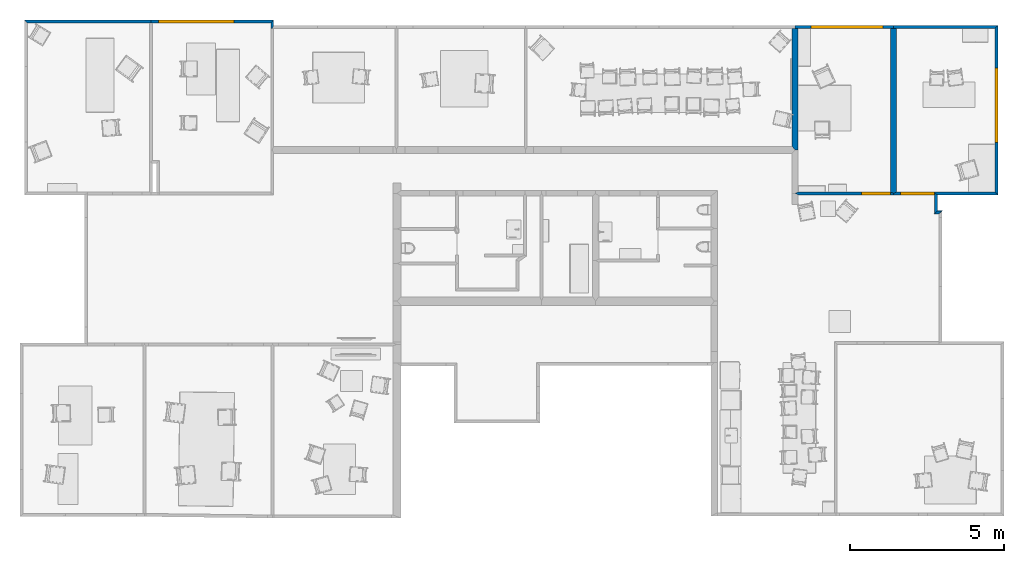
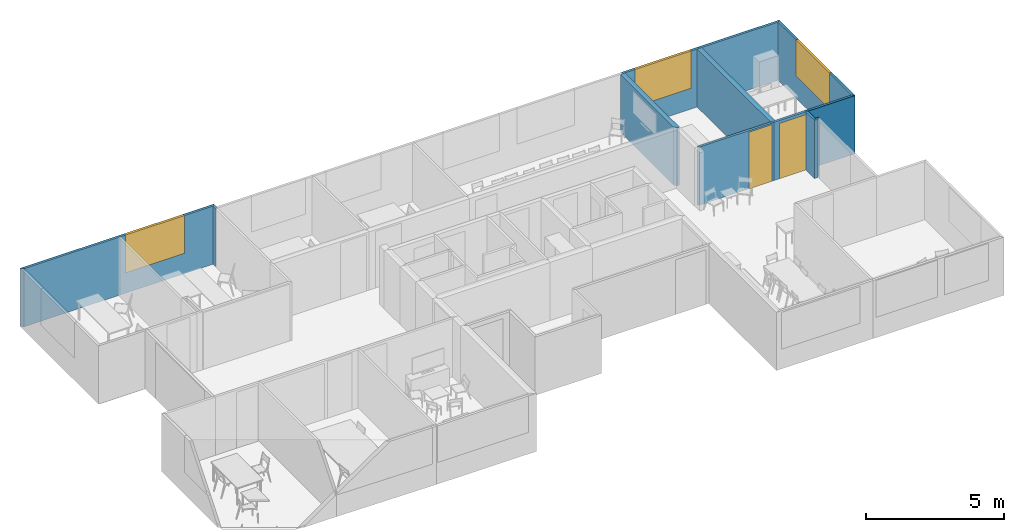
# One storey, part 5 of 26: 13 walls, 3 windows, 2 doors, 5 openings.
"""IFC2X3 building model written with IfcOpenShell, lengths in metres."""

from ifc_helpers import new_model, si_unit, direction, frame, origin_with_axes, place, context, subcontext, project, spatial, polyline, outline, extrude, type_object, element, fill, save


model = new_model("IFC2X3")

# Units and contexts
model_context = context("Model", 3, precision=1e-05, world=origin_with_axes(), true_north=direction((0.996, -0.093, 0.0)))
body_context = subcontext(model_context, "Body", "Model", "MODEL_VIEW")
ifc_project = project(units=[si_unit("AREAUNIT", "SQUARE_METRE"), si_unit("LENGTHUNIT", "METRE")], contexts=[model_context])

# Site, building, storey
site_placement = place(None, origin_with_axes())
site = spatial("IfcSite", under=ifc_project, at=site_placement, Name="Site", CompositionType="ELEMENT")
building_placement = place(site_placement, origin_with_axes())
building = spatial("IfcBuilding", under=site, at=building_placement, Name="Building", CompositionType="ELEMENT")
storey_placement = place(building_placement, frame((0.0, 0.0, 0.0500001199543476), z_axis=(0.0, 0.0, 1.0), x_axis=(1.0, 0.0, 0.0)))
storey = spatial("IfcBuildingStorey", under=building, at=storey_placement, Name="Story 0", CompositionType="ELEMENT", Elevation=0.0500000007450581)

# Wall, opening, door
wall_type_1 = type_object("IfcWallType", PredefinedType="STANDARD")
wall_1_placement = place(storey_placement, frame((23.1149466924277, 5.68250849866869, 0.0), z_axis=(0.0, 0.0, 1.0), x_axis=(1.0, 0.0, 0.0)))
wall_1 = element("IfcWallStandardCase", 1, at=wall_1_placement, inside=storey, type_object=wall_type_1, Name="Wall", context=body_context, shape_type="SweptSolid", body=[
    extrude(outline(polyline([(0.0, 0.0), (-0.0947414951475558, 0.046382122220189), (-7.62452486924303e-07, 0.0927647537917), (3.01657328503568, 0.0927657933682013), (3.11411276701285, 0.0463835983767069), (3.1141131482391, 1.22148085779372e-06), (0.0, 0.0)])), origin_with_axes(), (0.0, 0.0, 1.0), 2.57293934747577),
])
opening_1_placement = place(wall_1_placement, frame((2.06755019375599, 0.0, 0.0), z_axis=(0.0, 0.0, 1.0), x_axis=(0.999999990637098, 0.0, 0.0)))
opening_1 = element("IfcOpeningElement", 2, at=opening_1_placement, cuts=wall_1, Name="OpeningElement", ObjectType="OPENING", context=body_context, shape_type="SweptSolid", body=[
    extrude(outline(polyline([(0.0, 0.0), (0.949021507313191, 0.0), (0.949021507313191, 2.50352191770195), (0.0, 2.50352191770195), (0.0, 0.0)])), frame((0.0, 0.0, 0.0), z_axis=(0.0, -1.0, 0.0), x_axis=(1.0, 0.0, 0.0)), (0.0, 0.0, -1.0), 0.0928644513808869),
])
door_style_1 = type_object("IfcDoorStyle", Name="2c506a7a-6ab8-4ef4-9e8e-d6ff972fd99b", ConstructionType="NOTDEFINED", OperationType="NOTDEFINED", ParameterTakesPrecedence=False, Sizeable=False)
door_1_placement = place(opening_1_placement, origin_with_axes())
door_1 = element("IfcDoor", 3, at=door_1_placement, inside=storey, type_object=door_style_1, Name="Door", OverallHeight=2.50352187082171, OverallWidth=0.994197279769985, context=body_context, shape_type="SweptSolid", body=[
    extrude(outline(polyline([(0.0, 0.0), (-0.949021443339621, 0.0), (-0.949021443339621, 2.50352187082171), (0.0, 2.50352187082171), (0.0, 0.0)])), frame((0.0, 0.0927644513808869, 0.0), z_axis=(0.0, 1.0, 0.0), x_axis=(-1.0, 0.0, 0.0)), (0.0, 0.0, -1.0), 0.0927644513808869),
])
fill(opening_1, door_1)

wall_type_2 = type_object("IfcWallType", PredefinedType="STANDARD")
wall_2_placement = place(storey_placement, frame((26.2290598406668, 5.68250972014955, 0.0), z_axis=(0.0, 0.0, 1.0), x_axis=(1.0, 0.0, 0.0)))
wall_2 = element("IfcWallStandardCase", 4, at=wall_2_placement, inside=storey, type_object=wall_type_2, Name="Wall", context=body_context, shape_type="SweptSolid", body=[
    extrude(outline(polyline([(0.0, 0.0), (-3.81226243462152e-07, 0.0463823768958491), (0.0975402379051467, 0.0927647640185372), (1.32923567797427, 0.0927644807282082), (1.32923605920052, 0.0463821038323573), (1.32923644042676, -2.73063492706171e-07), (0.0, 0.0)])), origin_with_axes(), (0.0, 0.0, 1.0), 2.57293934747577),
])
opening_2_placement = place(wall_2_placement, frame((0.218183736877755, 0.0, 0.0), z_axis=(0.0, 0.0, 1.0), x_axis=(0.999999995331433, 0.0, 0.0)))
opening_2 = element("IfcOpeningElement", 5, at=opening_2_placement, cuts=wall_2, Name="OpeningElement", ObjectType="OPENING", context=body_context, shape_type="SweptSolid", body=[
    extrude(outline(polyline([(0.0, 0.0), (1.11105236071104, 0.0), (1.11105236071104, 2.4517842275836), (0.0, 2.4517842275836), (0.0, 0.0)])), frame((0.0, 0.0, 0.0), z_axis=(0.0, -1.0, 0.0), x_axis=(1.0, 0.0, 0.0)), (0.0, 0.0, -1.0), 0.0928647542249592),
])
door_style_2 = type_object("IfcDoorStyle", Name="8b0d917a-a296-417f-9b9a-9b17b62ead6e", ConstructionType="NOTDEFINED", OperationType="NOTDEFINED", ParameterTakesPrecedence=False, Sizeable=False)
door_2_placement = place(opening_2_placement, origin_with_axes())
door_2 = element("IfcDoor", 6, at=door_2_placement, inside=storey, type_object=door_style_2, Name="Door", OverallHeight=2.45178503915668, OverallWidth=1.11105229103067, context=body_context, shape_type="SweptSolid", body=[
    extrude(outline(polyline([(0.0, 0.0), (-1.11105229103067, 0.0), (-1.11105229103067, 2.45178420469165), (0.0, 2.45178420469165), (0.0, 0.0)])), frame((0.0, 0.0927647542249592, 0.0), z_axis=(0.0, 1.0, 0.0), x_axis=(-1.0, 0.0, 0.0)), (0.0, 0.0, -1.0), 0.0927647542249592),
])
fill(opening_2, door_2)

# Walls
wall_type_3 = type_object("IfcWallType", PredefinedType="STANDARD")
wall_3_placement = place(storey_placement, frame((27.5582979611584, 5.06036703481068, 0.0), z_axis=(0.0, 0.0, 1.0), x_axis=(1.0, 0.0, 0.0)))
element("IfcWallStandardCase", 7, at=wall_3_placement, inside=storey, type_object=wall_type_3, Name="Wall", context=body_context, shape_type="SweptSolid", body=[
    extrude(outline(polyline([(0.0, 0.0), (0.0999999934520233, 0.0999989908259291), (0.245564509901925, 0.0999980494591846), (0.14556447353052, -1.4162684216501e-06), (0.0, 0.0)])), origin_with_axes(), (0.0, 0.0, 1.0), 2.57293934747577),
])
wall_type_4 = type_object("IfcWallType", PredefinedType="STANDARD")
wall_4_placement = place(storey_placement, frame((27.5582979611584, 5.06036703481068, 0.0), z_axis=(0.0, 0.0, 1.0), x_axis=(1.0, 0.0, 0.0)))
element("IfcWallStandardCase", 8, at=wall_4_placement, inside=storey, type_object=wall_type_4, Name="Wall", context=body_context, shape_type="SweptSolid", body=[
    extrude(outline(polyline([(0.0, 0.0), (-1.68006486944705e-06, 0.622142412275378), (-2.06129110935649e-06, 0.668524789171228), (0.0999983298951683, 0.622142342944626), (0.0999999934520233, 0.0999989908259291), (0.0, 0.0)])), origin_with_axes(), (0.0, 0.0, 1.0), 2.57293934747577),
])
wall_type_5 = type_object("IfcWallType", PredefinedType="STANDARD")
wall_5_placement = place(storey_placement, frame((5.96408788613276, 11.0853234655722, 0.0), z_axis=(0.0, 0.0, 1.0), x_axis=(1.0, 0.0, 0.0)))
element("IfcWallStandardCase", 9, at=wall_5_placement, inside=storey, type_object=wall_type_5, Name="Wall", context=body_context, shape_type="SweptSolid", body=[
    extrude(outline(polyline([(0.0, 0.0), (0.000422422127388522, 0.184451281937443), (0.0934165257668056, 0.284451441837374), (0.0929935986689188, 0.0998939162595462), (0.0463823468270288, -0.000105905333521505), (0.0, 0.0)])), origin_with_axes(), (0.0, 0.0, 1.0), 2.57293934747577),
])

# Wall, opening, window
wall_type_6 = type_object("IfcWallType", PredefinedType="STANDARD")
wall_6_placement = place(storey_placement, frame((2.11039983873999, 11.2697735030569, 0.0), z_axis=(0.0, 0.0, 1.0), x_axis=(1.0, 0.0, 0.0)))
wall_6 = element("IfcWallStandardCase", 10, at=wall_6_placement, inside=storey, type_object=wall_type_6, Name="Wall", context=body_context, shape_type="SweptSolid", body=[
    extrude(outline(polyline([(0.0, 0.0), (-0.0463822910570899, 5.68577110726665e-07), (-0.0463823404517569, 0.100000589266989), (3.94710457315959, 0.100001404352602), (3.85411046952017, 1.24445267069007e-06), (0.0, 0.0)])), origin_with_axes(), (0.0, 0.0, 1.0), 2.57293934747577),
])
opening_3_placement = place(wall_6_placement, frame((0.204486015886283, 0.0, 0.901117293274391), z_axis=(0.0, 0.0, 1.0), x_axis=(0.999999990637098, 0.0, 0.0)))
opening_3 = element("IfcOpeningElement", 11, at=opening_3_placement, cuts=wall_6, Name="OpeningElement", ObjectType="OPENING", context=body_context, shape_type="SweptSolid", body=[
    extrude(outline(polyline([(0.0, 0.0), (2.45018422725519, 0.0), (2.45018422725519, 1.6718219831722), (0.0, 1.6718219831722), (0.0, 0.0)])), frame((0.0, 0.0, 0.0), z_axis=(0.0, -1.0, 0.0), x_axis=(1.0, 0.0, 0.0)), (0.0, 0.0, -1.0), 0.100100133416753),
])
window_style_1 = type_object("IfcWindowStyle", Name="1c1db8cc-ba8e-47a9-8393-d6d950fcc77e", ConstructionType="ALUMINIUM", OperationType="SINGLE_PANEL", ParameterTakesPrecedence=True, Sizeable=True)
window_1_placement = place(opening_3_placement, origin_with_axes())
window_1 = element("IfcWindow", 12, at=window_1_placement, inside=storey, type_object=window_style_1, Name="Window", OverallHeight=1.5, OverallWidth=0.5, context=body_context, shape_type="SweptSolid", body=[
    extrude(outline(polyline([(0.0, 0.0), (-2.45018407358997, 0.0), (-2.45018407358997, 1.67182195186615), (0.0, 1.67182195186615), (0.0, 0.0)])), frame((0.0, 0.100000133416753, 0.0), z_axis=(0.0, 1.0, 0.0), x_axis=(-1.0, 0.0, 0.0)), (0.0, 0.0, -1.0), 0.100000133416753),
])
fill(opening_3, window_1)

# Walls
wall_type_7 = type_object("IfcWallType", PredefinedType="STANDARD")
wall_7_placement = place(storey_placement, frame((26.3265985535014, 11.0953699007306, 0.0), z_axis=(0.0, 0.0, 1.0), x_axis=(1.0, 0.0, 0.0)))
element("IfcWallStandardCase", 13, at=wall_7_placement, inside=storey, type_object=wall_type_7, Name="Wall", context=body_context, shape_type="SweptSolid", body=[
    extrude(outline(polyline([(0.0, 0.0), (-0.0975391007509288, -1.81904356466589e-07), (-0.0975390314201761, 0.099999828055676), (3.29669342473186, 0.100002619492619), (3.19669325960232, 1.72905998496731e-06), (0.0, 0.0)])), origin_with_axes(), (0.0, 0.0, 1.0), 2.57293934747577),
])
wall_type_8 = type_object("IfcWallType", PredefinedType="STANDARD")
wall_8_placement = place(storey_placement, frame((27.6582962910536, 5.68250937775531, 0.0), z_axis=(0.0, 0.0, 1.0), x_axis=(1.0, 0.0, 0.0)))
element("IfcWallStandardCase", 14, at=wall_8_placement, inside=storey, type_object=wall_type_8, Name="Wall", context=body_context, shape_type="SweptSolid", body=[
    extrude(outline(polyline([(0.0, 0.0), (-0.100000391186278, 0.0463824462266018), (-0.100000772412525, 0.0927648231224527), (1.86500076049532, 0.092765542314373), (1.96499963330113, 8.90869439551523e-07), (0.0, 0.0)])), origin_with_axes(), (0.0, 0.0, 1.0), 2.57293934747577),
])
wall_type_9 = type_object("IfcWallType", PredefinedType="STANDARD")
wall_9_placement = place(storey_placement, frame((26.1315203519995, 11.0953695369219, 0.0), z_axis=(0.0, 0.0, 1.0), x_axis=(1.0, 0.0, 0.0)))
element("IfcWallStandardCase", 15, at=wall_9_placement, inside=storey, type_object=wall_type_9, Name="Wall", context=body_context, shape_type="SweptSolid", body=[
    extrude(outline(polyline([(0.0, 0.0), (0.0975391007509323, 1.81904358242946e-07), (0.195078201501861, 3.63808714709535e-07), (0.195079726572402, -5.32009505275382), (0.0975391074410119, -5.36647743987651), (-3.74536163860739e-07, -5.32009524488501), (0.0, 0.0)])), origin_with_axes(), (0.0, 0.0, 1.0), 2.57293934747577),
])

# Wall, opening, window
wall_type_10 = type_object("IfcWallType", PredefinedType="STANDARD")
wall_10_placement = place(storey_placement, frame((29.5232918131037, 11.0953716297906, 0.0), z_axis=(0.0, 0.0, 1.0), x_axis=(1.0, 0.0, 0.0)))
wall_10 = element("IfcWallStandardCase", 16, at=wall_10_placement, inside=storey, type_object=wall_type_10, Name="Wall", context=body_context, shape_type="SweptSolid", body=[
    extrude(outline(polyline([(0.0, 0.0), (0.100000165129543, 0.100000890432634), (0.100004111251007, -5.41286136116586), (5.2384451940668e-06, -5.32009670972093), (0.0, 0.0)])), origin_with_axes(), (0.0, 0.0, 1.0), 2.57293934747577),
])
opening_4_placement = place(wall_10_placement, frame((0.0, -1.29066513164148, 0.978742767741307), z_axis=(0.0, 0.0, 1.0), x_axis=(0.0, -1.00000001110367, 0.0)))
opening_4 = element("IfcOpeningElement", 17, at=opening_4_placement, cuts=wall_10, Name="OpeningElement", ObjectType="OPENING", context=body_context, shape_type="SweptSolid", body=[
    extrude(outline(polyline([(-1.8909163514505e-16, 0.0), (2.42700752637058, 0.0), (2.42700752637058, 1.59419640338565), (-1.8909163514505e-16, 1.59419640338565), (-1.8909163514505e-16, 0.0)])), frame((0.0, 0.0, 0.0), z_axis=(0.0, -1.0, 0.0), x_axis=(1.0, 0.0, 0.0)), (0.0, 0.0, -1.0), 0.100098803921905),
])
window_style_2 = type_object("IfcWindowStyle", Name="e56452d6-9ef4-42d2-b233-236c2c72ba5b", ConstructionType="ALUMINIUM", OperationType="SINGLE_PANEL", ParameterTakesPrecedence=True, Sizeable=True)
window_2_placement = place(opening_4_placement, origin_with_axes())
window_2 = element("IfcWindow", 18, at=window_2_placement, inside=storey, type_object=window_style_2, Name="Window", OverallHeight=1.5, OverallWidth=0.5, context=body_context, shape_type="SweptSolid", body=[
    extrude(outline(polyline([(4.84319886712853e-16, 0.0), (-2.42700763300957, 0.0), (-2.42700763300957, 1.59419643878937), (4.84319886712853e-16, 1.59419643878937), (4.84319886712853e-16, 0.0)])), frame((0.0, 0.0999988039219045, 0.0), z_axis=(0.0, 1.0, 0.0), x_axis=(-1.0, 0.0, 0.0)), (0.0, 0.0, -1.0), 0.0999988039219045),
])
fill(opening_4, window_2)

# Wall
wall_type_11 = type_object("IfcWallType", PredefinedType="STANDARD")
wall_11_placement = place(storey_placement, frame((22.925463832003, 11.0952593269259, 0.0), z_axis=(0.0, 0.0, 1.0), x_axis=(1.0, 0.0, 0.0)))
element("IfcWallStandardCase", 19, at=wall_11_placement, inside=storey, type_object=wall_type_11, Name="Wall", context=body_context, shape_type="SweptSolid", body=[
    extrude(outline(polyline([(0.0, 0.0), (0.0947395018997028, 0.000109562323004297), (0.189480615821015, 0.00010981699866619), (0.189481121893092, -3.95194196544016), (0.0947419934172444, -3.95194144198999), (6.89503920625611e-07, -3.83791626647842), (0.0, 0.0)])), origin_with_axes(), (0.0, 0.0, 1.0), 2.57293934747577),
])

# Wall, opening, window
wall_type_12 = type_object("IfcWallType", PredefinedType="STANDARD")
wall_12_placement = place(storey_placement, frame((23.114944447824, 11.0953691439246, 0.0), z_axis=(0.0, 0.0, 1.0), x_axis=(1.0, 0.0, 0.0)))
wall_12 = element("IfcWallStandardCase", 20, at=wall_12_placement, inside=storey, type_object=wall_type_12, Name="Wall", context=body_context, shape_type="SweptSolid", body=[
    extrude(outline(polyline([(0.0, 0.0), (-0.0947411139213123, -2.54675661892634e-07), (-0.0947410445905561, 0.0999997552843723), (3.11411507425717, 0.100000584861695), (3.11411500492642, 5.74901662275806e-07), (3.01657590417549, 3.9299730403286e-07), (0.0, 0.0)])), origin_with_axes(), (0.0, 0.0, 1.0), 2.57293934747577),
])
opening_5_placement = place(wall_12_placement, frame((0.419647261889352, 0.0, 0.924402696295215), z_axis=(0.0, 0.0, 1.0), x_axis=(0.999999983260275, 0.0, 0.0)))
opening_5 = element("IfcOpeningElement", 21, at=opening_5_placement, cuts=wall_12, Name="OpeningElement", ObjectType="OPENING", context=body_context, shape_type="SweptSolid", body=[
    extrude(outline(polyline([(0.0, 0.0), (2.3445787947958, 0.0), (2.3445787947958, 1.64853661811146), (0.0, 1.64853661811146), (0.0, 0.0)])), frame((0.0, 0.0, 0.0), z_axis=(0.0, -1.0, 0.0), x_axis=(1.0, 0.0, 0.0)), (0.0, 0.0, -1.0), 0.10010015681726),
])
window_style_3 = type_object("IfcWindowStyle", Name="5e8b37b2-2fe4-45a3-9714-844a8306c8e7", ConstructionType="ALUMINIUM", OperationType="SINGLE_PANEL", ParameterTakesPrecedence=True, Sizeable=True)
window_3_placement = place(opening_5_placement, origin_with_axes())
window_3 = element("IfcWindow", 22, at=window_3_placement, inside=storey, type_object=window_style_3, Name="Window", OverallHeight=1.5, OverallWidth=0.5, context=body_context, shape_type="SweptSolid", body=[
    extrude(outline(polyline([(0.0, 0.0), (-2.34457853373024, 0.0), (-2.34457853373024, 1.64853656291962), (0.0, 1.64853656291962), (0.0, 0.0)])), frame((0.0, 0.10000015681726, 0.0), z_axis=(0.0, 1.0, 0.0), x_axis=(-1.0, 0.0, 0.0)), (0.0, 0.0, -1.0), 0.10000015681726),
])
fill(opening_5, window_3)

# Wall
wall_type_13 = type_object("IfcWallType", PredefinedType="STANDARD")
wall_13_placement = place(storey_placement, frame((-1.95416841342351, 11.2697724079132, 0.0), z_axis=(0.0, 0.0, 1.0), x_axis=(1.0, 0.0, 0.0)))
element("IfcWallStandardCase", 23, at=wall_13_placement, inside=storey, type_object=wall_type_13, Name="Wall", context=body_context, shape_type="SweptSolid", body=[
    extrude(outline(polyline([(0.0, 0.0), (-0.0999999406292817, 0.100000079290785), (4.01818591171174, 0.100001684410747), (4.0181859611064, 1.66372086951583e-06), (3.97180358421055, 1.28249462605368e-06), (0.0, 0.0)])), origin_with_axes(), (0.0, 0.0, 1.0), 2.57293934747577),
])

save(model, "model.ifc")
